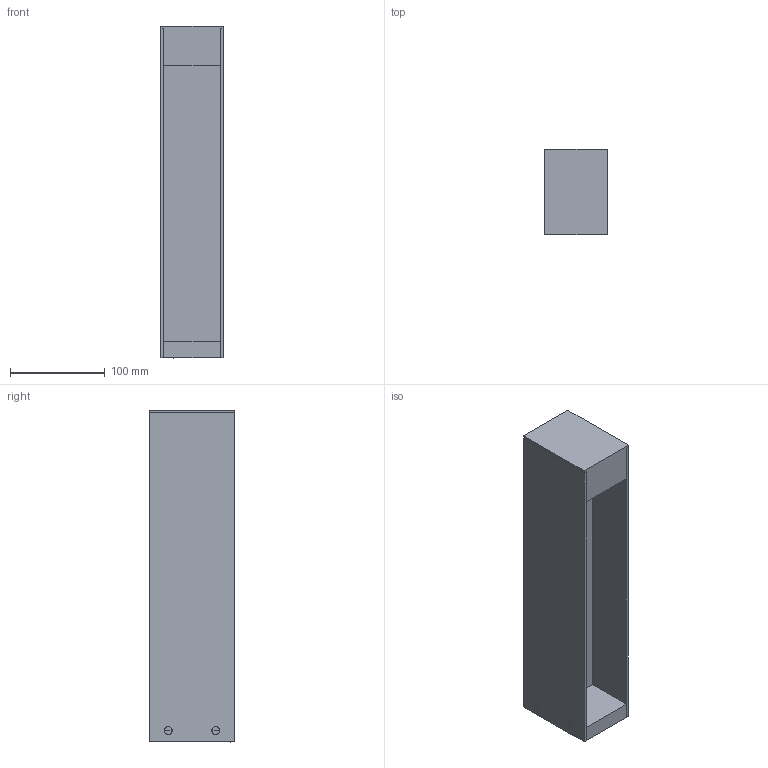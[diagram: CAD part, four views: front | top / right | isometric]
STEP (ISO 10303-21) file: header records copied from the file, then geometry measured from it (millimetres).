
FILE_DESCRIPTION(/* description */ (''),/* implementation_level */ '2;1');
FILE_NAME(/* name */ '71940.step',/* time_stamp */ '2024-10-09T15:42:35+02:00',/* author */ ('RenataManzini'),/* organization */ (''),/* preprocessor_version */ 'ST-DEVELOPER v20',/* originating_system */ 'AutoCAD Mechanical',/* authorisation */ '');
FILE_SCHEMA (('AUTOMOTIVE_DESIGN { 1 0 10303 214 3 1 1 }'));
Length unit declared in the file: millimetre
Products named in the file (3): Product; cerler_350 - 350-730870-_3D_; cerler_350 - Cerler_350_dwg_X20003_39-730868-_3D_
Assembly tree (2 placements, depth 3):
  Product
    cerler_350 - 350-730870-_3D_
      cerler_350 - Cerler_350_dwg_X20003_39-730868-_3D_
Bounding box: 66.1 x 90 x 350.01 mm (x, y, z)
Volume: 1128729.2 mm3; surface area: 201467 mm2
Topology: 8 solids, 9 shells, 887 faces, 2388 edges, 1534 vertices
Faces by surface type: plane 519, cylinder 180, bspline 101, torus 49, cone 38
Entity records: 33305 total; most frequent: CARTESIAN_POINT 12575, ORIENTED_EDGE 4712, DIRECTION 3532, EDGE_CURVE 2367, LINE 1622, VECTOR 1622, VERTEX_POINT 1521, AXIS2_PLACEMENT_3D 955
